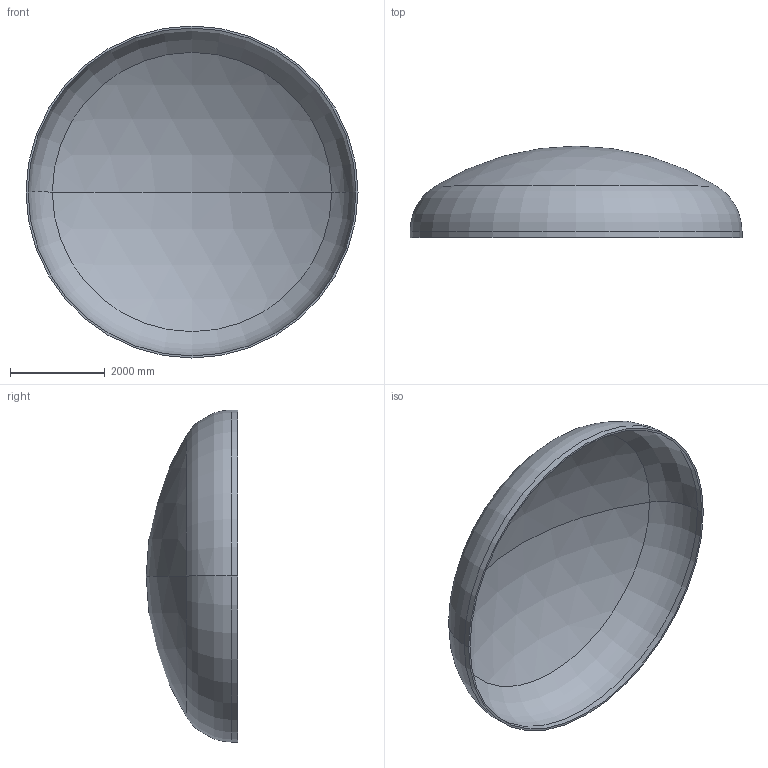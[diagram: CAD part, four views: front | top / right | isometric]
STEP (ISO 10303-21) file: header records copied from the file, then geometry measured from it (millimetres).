
FILE_DESCRIPTION (( 'STEP AP203' ), '1' );
FILE_NAME ('DIN 28013 Korbbogenform_-_Boden DIN 28013 - 7000 x 130 - I - s=43.step', '2016-07-04T10:47:27', ( '' ), ( '' ), 'SwSTEP 2.0', 'SolidWorks 2013', '' );
FILE_SCHEMA (( 'CONFIG_CONTROL_DESIGN' ));
Length unit declared in the file: millimetre
Products named in the file (1): DIN 28013 Korbbogenform_-_Boden DIN 28013 - 7000 x 130 - I - s=43
Bounding box: 7000 x 1928.49 x 7000 mm (x, y, z)
Volume: 2396428528 mm3; surface area: 112405431.7 mm2
Topology: 1 solids, 1 shells, 13 faces, 24 edges, 14 vertices
Faces by surface type: torus 4, cylinder 4, sphere 4, plane 1
Entity records: 407 total; most frequent: DIRECTION 72, CARTESIAN_POINT 52, ORIENTED_EDGE 48, AXIS2_PLACEMENT_3D 34, EDGE_CURVE 24, CIRCLE 20, EDGE_LOOP 14, VERTEX_POINT 14
